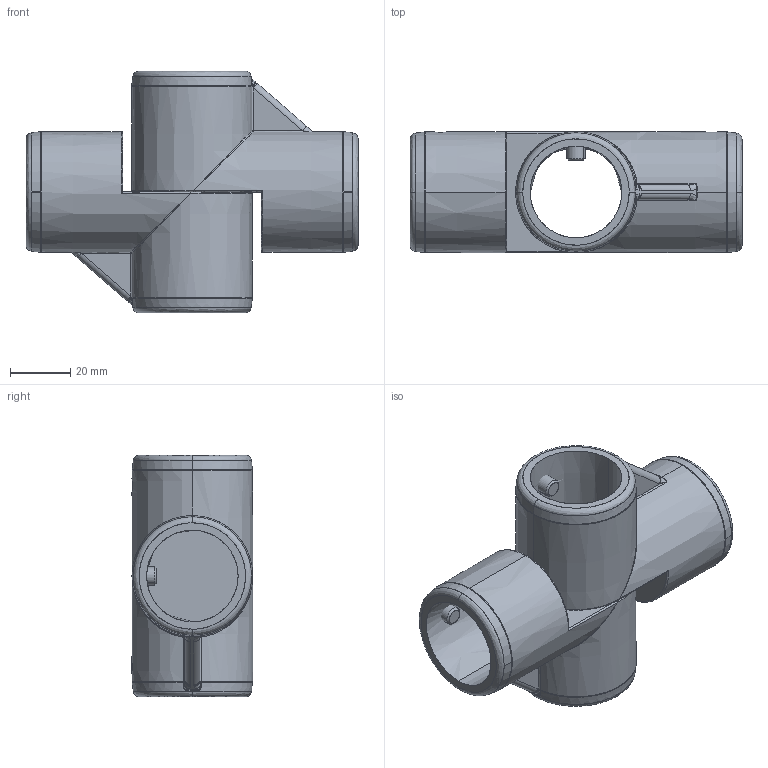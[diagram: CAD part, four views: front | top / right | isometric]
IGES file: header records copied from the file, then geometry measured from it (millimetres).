
Start section: SolidWorks IGES file using analytic representation for surfaces
Global section: file name: C:\Users\Gerard\OneDrive - Tecnodin, S.L\Escritorio\30 mm Verbinder im step. Format\31000410019.IGS; native system: SolidWorks 2016; preprocessor: SolidWorks 2016; author: Gerard; date: 240902.153844; units: millimetre
Bounding box: 110 x 40.23 x 80 mm (x, y, z)
Surface area: 37507.6 mm2 (no closed solid volume)
Topology: 0 solids, 0 shells, 202 faces, 2616 edges, 2604 vertices
Faces by surface type: bspline 118, revolution 84
